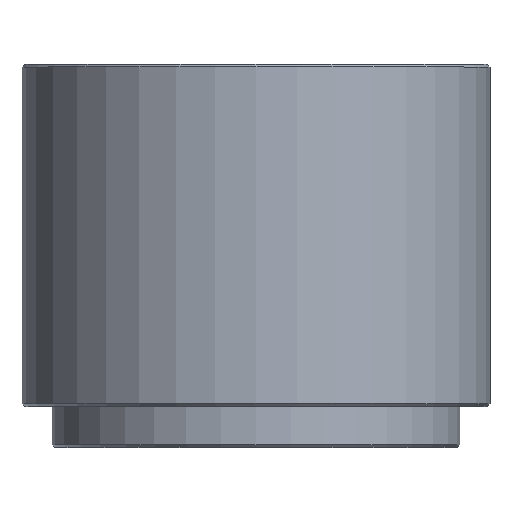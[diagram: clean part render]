
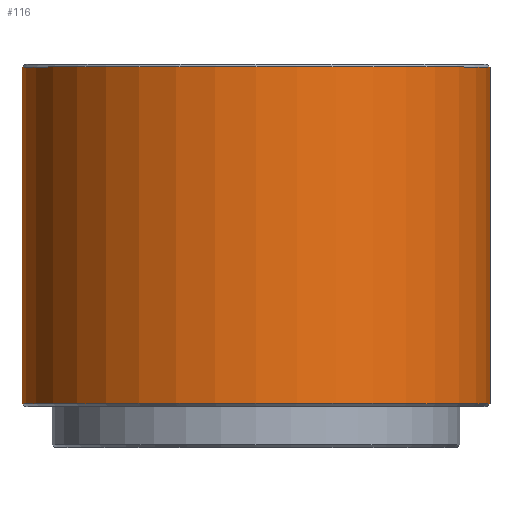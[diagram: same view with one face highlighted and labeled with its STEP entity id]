
A CAD part, top view. The second image highlights one B-rep face of the part: STEP entity #116.
In plain terms, the highlighted cylindrical face has radius 10.858 mm (diameter 21.717 mm), a full revolution.
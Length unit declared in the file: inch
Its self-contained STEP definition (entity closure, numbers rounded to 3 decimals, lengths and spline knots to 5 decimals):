
#18=CYLINDRICAL_SURFACE('',#148,0.4275);
#22=FACE_BOUND('',#44,.T.);
#32=FACE_OUTER_BOUND('',#43,.T.);
#43=EDGE_LOOP('',(#93));
#44=EDGE_LOOP('',(#94));
#61=CIRCLE('',#146,0.4275);
#63=CIRCLE('',#149,0.4275);
#71=VERTEX_POINT('',#209);
#73=VERTEX_POINT('',#214);
#81=EDGE_CURVE('',#71,#71,#61,.T.);
#83=EDGE_CURVE('',#73,#73,#63,.T.);
#93=ORIENTED_EDGE('',*,*,#83,.F.);
#94=ORIENTED_EDGE('',*,*,#81,.F.);
#116=ADVANCED_FACE('',(#32,#22),#18,.T.);
#146=AXIS2_PLACEMENT_3D('',#210,#169,#170);
#148=AXIS2_PLACEMENT_3D('',#213,#173,#174);
#149=AXIS2_PLACEMENT_3D('',#215,#175,#176);
#169=DIRECTION('center_axis',(0.,1.,0.));
#170=DIRECTION('ref_axis',(1.,0.,0.));
#173=DIRECTION('center_axis',(0.,1.,0.));
#174=DIRECTION('ref_axis',(1.,0.,0.));
#175=DIRECTION('center_axis',(0.,-1.,0.));
#176=DIRECTION('ref_axis',(-1.,0.,0.));
#209=CARTESIAN_POINT('',(-0.4275,0.695,0.));
#210=CARTESIAN_POINT('Origin',(0.,0.695,0.));
#213=CARTESIAN_POINT('Origin',(0.,0.,0.));
#214=CARTESIAN_POINT('',(0.4275,0.08,0.));
#215=CARTESIAN_POINT('Origin',(0.,0.08,0.));
